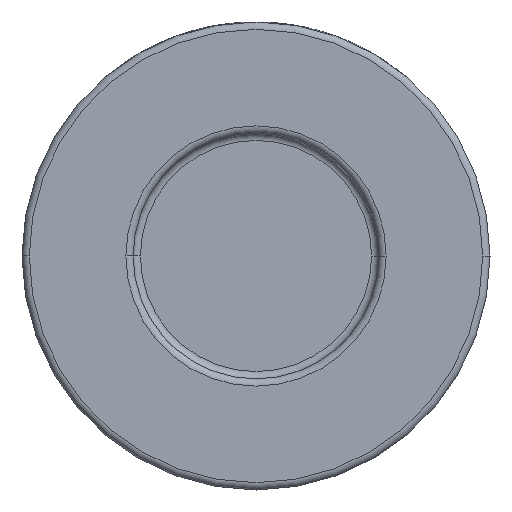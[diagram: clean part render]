
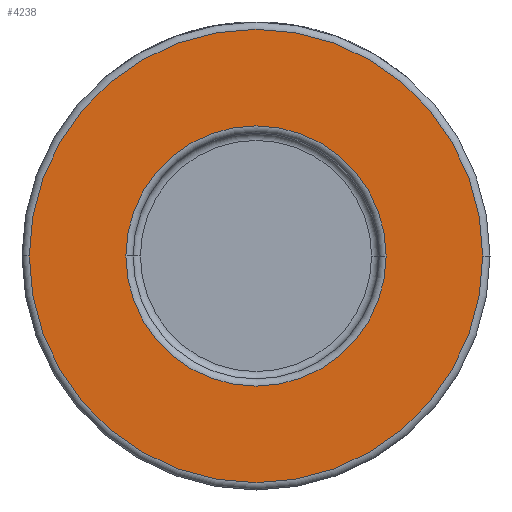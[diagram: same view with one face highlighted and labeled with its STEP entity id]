
A CAD part, front view. The second image highlights one B-rep face of the part: STEP entity #4238.
In plain terms, the highlighted planar face has unit normal (0, -1, 0).
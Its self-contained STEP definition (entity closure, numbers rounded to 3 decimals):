
#29 = EDGE_CURVE ( 'NONE', #540, #3196, #42, .T. ) ;
#42 = CIRCLE ( 'NONE', #1856, 17.8 ) ;
#273 = AXIS2_PLACEMENT_3D ( 'NONE', #2233, #1884, #2972 ) ;
#357 = CARTESIAN_POINT ( 'NONE',  ( 0., -21., 0. ) ) ;
#400 = DIRECTION ( 'NONE',  ( 1., 0., 0. ) ) ;
#416 = CIRCLE ( 'NONE', #2811, 31. ) ;
#540 = VERTEX_POINT ( 'NONE', #2874 ) ;
#547 = DIRECTION ( 'NONE',  ( 0., 1., 0. ) ) ;
#596 = EDGE_CURVE ( 'NONE', #900, #838, #2229, .T. ) ;
#714 = ORIENTED_EDGE ( 'NONE', *, *, #596, .T. ) ;
#740 = FACE_BOUND ( 'NONE', #1365, .T. ) ;
#787 = EDGE_CURVE ( 'NONE', #838, #900, #416, .T. ) ;
#838 = VERTEX_POINT ( 'NONE', #3591 ) ;
#900 = VERTEX_POINT ( 'NONE', #4185 ) ;
#1019 = DIRECTION ( 'NONE',  ( 0., -1., 0. ) ) ;
#1103 = CARTESIAN_POINT ( 'NONE',  ( 32., -21., 0. ) ) ;
#1365 = EDGE_LOOP ( 'NONE', ( #3017, #2431 ) ) ;
#1434 = FACE_OUTER_BOUND ( 'NONE', #2314, .T. ) ;
#1737 = PLANE ( 'NONE',  #3153 ) ;
#1856 = AXIS2_PLACEMENT_3D ( 'NONE', #2661, #547, #3334 ) ;
#1884 = DIRECTION ( 'NONE',  ( 0., -1., 0. ) ) ;
#2056 = AXIS2_PLACEMENT_3D ( 'NONE', #2085, #4229, #400 ) ;
#2085 = CARTESIAN_POINT ( 'NONE',  ( 0., -21., 0. ) ) ;
#2229 = CIRCLE ( 'NONE', #273, 31. ) ;
#2233 = CARTESIAN_POINT ( 'NONE',  ( 0., -21., 0. ) ) ;
#2314 = EDGE_LOOP ( 'NONE', ( #4401, #714 ) ) ;
#2431 = ORIENTED_EDGE ( 'NONE', *, *, #4187, .T. ) ;
#2526 = DIRECTION ( 'NONE',  ( 1., 0., 0. ) ) ;
#2661 = CARTESIAN_POINT ( 'NONE',  ( 0., -21., 0. ) ) ;
#2811 = AXIS2_PLACEMENT_3D ( 'NONE', #357, #4290, #2526 ) ;
#2874 = CARTESIAN_POINT ( 'NONE',  ( 17.8, -21., 0. ) ) ;
#2972 = DIRECTION ( 'NONE',  ( 1., 0., 0. ) ) ;
#3017 = ORIENTED_EDGE ( 'NONE', *, *, #29, .T. ) ;
#3153 = AXIS2_PLACEMENT_3D ( 'NONE', #1103, #1019, #3548 ) ;
#3196 = VERTEX_POINT ( 'NONE', #4462 ) ;
#3334 = DIRECTION ( 'NONE',  ( 1., 0., 0. ) ) ;
#3548 = DIRECTION ( 'NONE',  ( 1., 0., 0. ) ) ;
#3591 = CARTESIAN_POINT ( 'NONE',  ( 31., -21., 0. ) ) ;
#3667 = CIRCLE ( 'NONE', #2056, 17.8 ) ;
#4185 = CARTESIAN_POINT ( 'NONE',  ( -31., -21., 0. ) ) ;
#4187 = EDGE_CURVE ( 'NONE', #3196, #540, #3667, .T. ) ;
#4229 = DIRECTION ( 'NONE',  ( 0., 1., 0. ) ) ;
#4238 = ADVANCED_FACE ( 'NONE', ( #740, #1434 ), #1737, .T. ) ;
#4290 = DIRECTION ( 'NONE',  ( 0., -1., 0. ) ) ;
#4401 = ORIENTED_EDGE ( 'NONE', *, *, #787, .T. ) ;
#4462 = CARTESIAN_POINT ( 'NONE',  ( -17.8, -21., 0. ) ) ;
